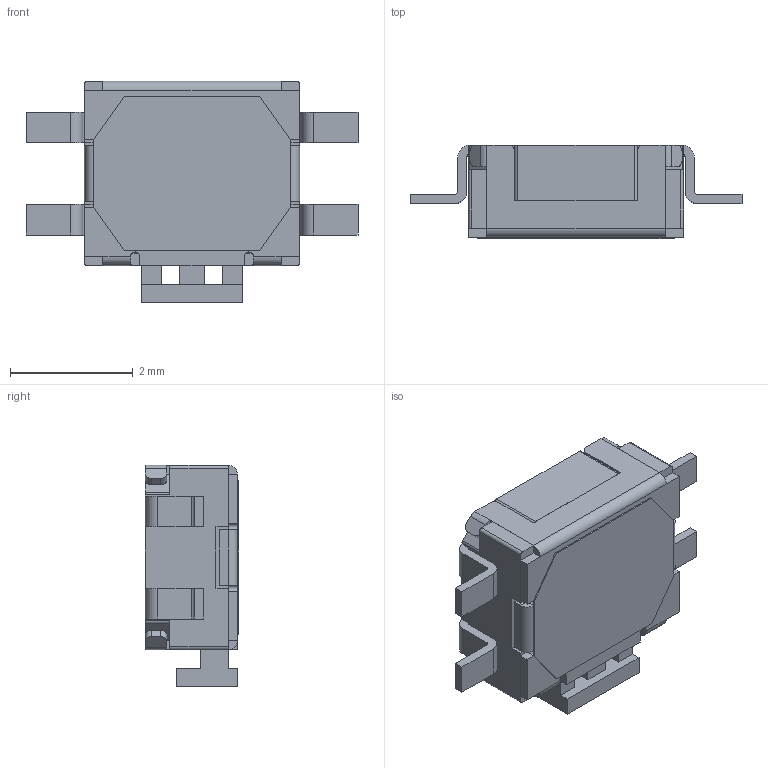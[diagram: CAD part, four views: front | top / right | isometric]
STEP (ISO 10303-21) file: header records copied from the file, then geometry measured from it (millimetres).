
FILE_DESCRIPTION((''),'2;1');
FILE_NAME('JQD3530-B-01DEG-1-105_ASM','2026-05-18T16:17:41',('Admin'),(''),'CREO PARAMETRIC BY PTC INC, 2019224','CREO PARAMETRIC BY PTC INC, 2019224','');
FILE_SCHEMA(('AUTOMOTIVE_DESIGN { 1 0 10303 214 1 1 1 1 }'));
Length unit declared in the file: millimetre
Products named in the file (5): JQD3530-B-01DEG-1-105_02; JQD3530-B-01DEG-1-105_03; JQD3530-B-01DEG-1-105_04; JQD3530-B-01DEG-1-105_08; JQD3530-B-01DEG-1-105_ASM
Assembly tree (4 placements, depth 2):
  JQD3530-B-01DEG-1-105_ASM
    JQD3530-B-01DEG-1-105_02
    JQD3530-B-01DEG-1-105_03
    JQD3530-B-01DEG-1-105_04
    JQD3530-B-01DEG-1-105_08
Bounding box: 5.4 x 1.52 x 3.6 mm (x, y, z)
Volume: 13.2 mm3; surface area: 125.9 mm2
Topology: 4 solids, 6 shells, 309 faces, 807 edges, 506 vertices
Faces by surface type: plane 221, cylinder 82, sphere 4, bspline 2
Entity records: 11756 total; most frequent: CARTESIAN_POINT 1732, DIRECTION 1619, ORIENTED_EDGE 1598, EDGE_CURVE 801, VECTOR 625, LINE 625, PRESENTATION_STYLE_ASSIGNMENT 545, VERTEX_POINT 502
